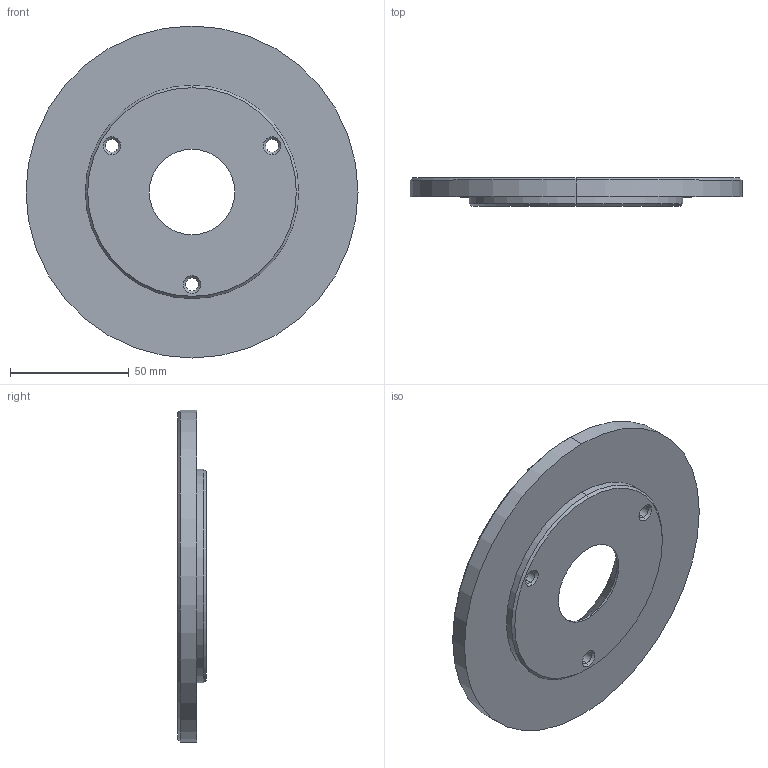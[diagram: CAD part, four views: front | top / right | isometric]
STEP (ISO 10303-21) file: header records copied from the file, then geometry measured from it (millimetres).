
FILE_DESCRIPTION (( 'STEP AP214' ), '1' );
FILE_NAME ('BR1000-140x12.STEP', '2020-02-05T12:23:34', ( 'August' ), ( '' ), 'SwSTEP 2.0', 'SolidWorks 2018', '' );
FILE_SCHEMA (( 'AUTOMOTIVE_DESIGN' ));
Length unit declared in the file: millimetre
Products named in the file (1): BR1000-140x12
Bounding box: 140 x 12 x 140 mm (x, y, z)
Volume: 126077.6 mm3; surface area: 34373.2 mm2
Topology: 1 solids, 1 shells, 42 faces, 90 edges, 54 vertices
Faces by surface type: cone 18, cylinder 18, plane 6
Entity records: 1194 total; most frequent: DIRECTION 230, CARTESIAN_POINT 187, ORIENTED_EDGE 180, AXIS2_PLACEMENT_3D 97, EDGE_CURVE 90, VERTEX_POINT 54, CIRCLE 54, EDGE_LOOP 54
